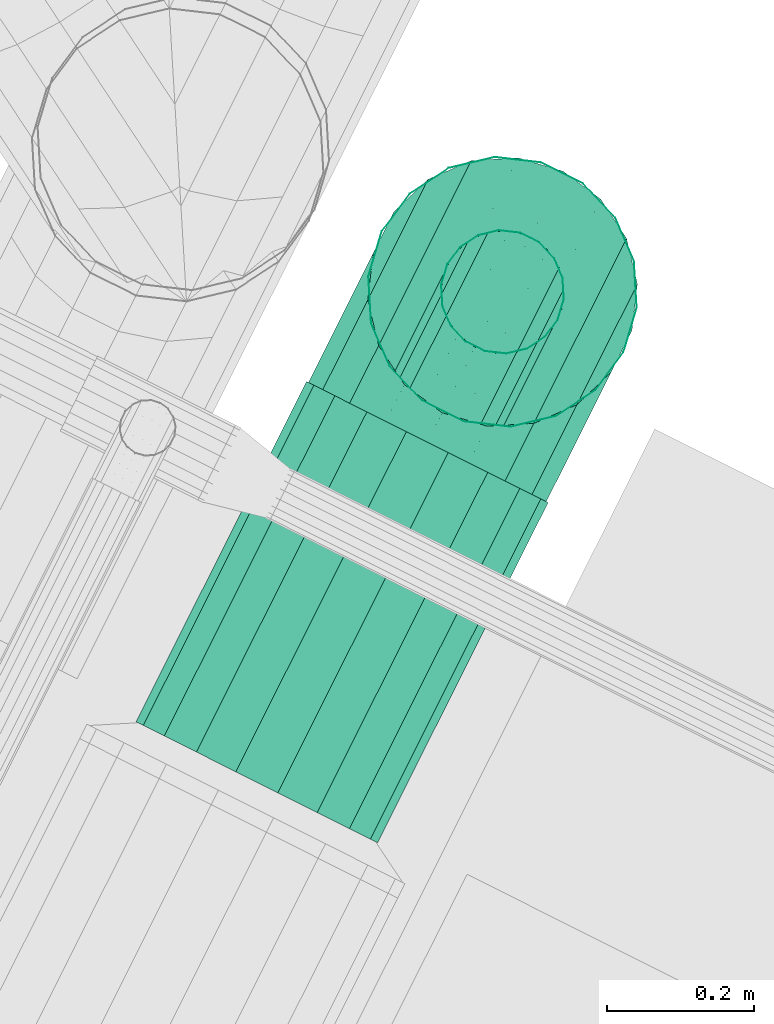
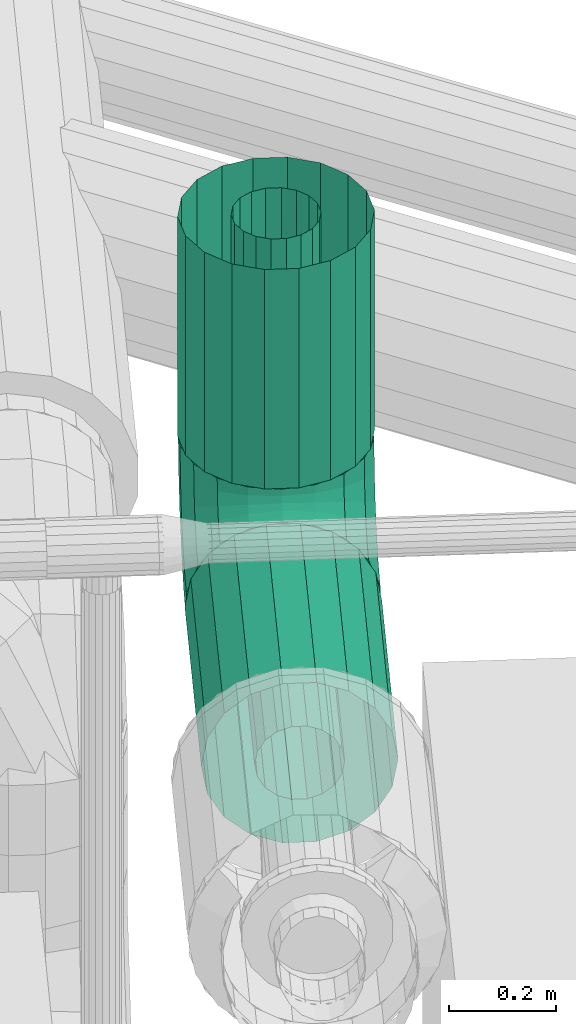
# One storey, part 133 of 206: 3 flow segments.
"""IFC2X3 building model written with IfcOpenShell, lengths in metres."""

from ifc_helpers import new_model, si_unit, derived_unit, direction, frame, origin, place, context, subcontext, project, spatial, face_set, surface_model, source, transform, mapped, material, type_object, type_shapes, element, save


model = new_model("IFC2X3")

# Units and contexts
model_context = context("Model", 3, precision=5.2338327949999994e-05, world=origin(), true_north=direction((0.0, 1.0)))
body_context = subcontext(model_context, "Body", "Model", "MODEL_VIEW")
ifc_project = project(units=[si_unit("LENGTHUNIT", "METRE"), si_unit("AREAUNIT", "SQUARE_METRE"), si_unit("VOLUMEUNIT", "CUBIC_METRE"), si_unit("MASSUNIT", "GRAM", prefix="KILO"), si_unit("PLANEANGLEUNIT", "RADIAN"), derived_unit("THERMALTRANSMITTANCEUNIT", [(si_unit("MASSUNIT", "GRAM", prefix="KILO"), 1), (si_unit("THERMODYNAMICTEMPERATUREUNIT", "KELVIN"), -1), (si_unit("TIMEUNIT", "SECOND"), -3)])], contexts=[model_context])

# Site, building, storey
site_placement = place(None, frame((0.0, 0.0, 0.0), z_axis=(0.0, 0.0, 1.0), x_axis=(0.8939966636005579, -0.4480736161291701, 0.0)))
site = spatial("IfcSite", under=ifc_project, at=site_placement, Name="Default", CompositionType="ELEMENT")
building_placement = place(site_placement, origin())
building = spatial("IfcBuilding", under=site, at=building_placement, CompositionType="ELEMENT")
storey_placement = place(building_placement, origin())
storey = spatial("IfcBuildingStorey", under=building, at=storey_placement, Name="Erdgeschoss", CompositionType="ELEMENT", Elevation=0.0)

# Flow segments
ifc_material = material(Name="IfcSurfaceStyle #1741")
distribution_element_type_1 = type_object("IfcDistributionElementType", Name="Stahlrohr nach DIN 2448 614313:Stahlrohr nach DIN 2448 614313", material=ifc_material)
shared_shape_1 = source(origin(), body_context, "Body", "SurfaceModel", [
    surface_model("IfcFaceBasedSurfaceModel", [(25.524005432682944, 8.230715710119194, 2.353999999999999), (25.518930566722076, 8.230715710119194, 2.382780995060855), (25.518930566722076, 7.711892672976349, 2.382780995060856), (25.524005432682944, 7.711892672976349, 2.3540000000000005), (25.5043180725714, 8.230715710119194, 2.408090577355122), (25.50431807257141, 7.711892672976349, 2.4080905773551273), (25.481930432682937, 8.230715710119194, 2.4268760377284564), (25.481930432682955, 7.711892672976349, 2.426876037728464), (25.454467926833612, 8.230715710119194, 2.436871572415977), (25.454467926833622, 7.711892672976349, 2.43687157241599), (25.42524293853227, 8.230715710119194, 2.436871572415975), (25.42524293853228, 7.711892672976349, 2.436871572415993), (25.39778043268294, 8.230715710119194, 2.4268760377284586), (25.39778043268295, 7.711892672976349, 2.4268760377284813), (25.37539279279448, 8.230715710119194, 2.4080905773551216), (25.37539279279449, 7.711892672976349, 2.408090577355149), (25.36078029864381, 8.230715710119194, 2.382780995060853), (25.360780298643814, 7.711892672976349, 2.382780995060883), (25.355705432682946, 8.230715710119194, 2.353999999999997), (25.35570543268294, 7.711892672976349, 2.3540000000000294), (25.360780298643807, 8.230715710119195, 2.3252190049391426), (25.360780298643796, 7.711892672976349, 2.3252190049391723), (25.375392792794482, 8.230715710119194, 2.2999094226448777), (25.375392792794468, 7.711892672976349, 2.2999094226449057), (25.39778043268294, 8.230715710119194, 2.281123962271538), (25.39778043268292, 7.711892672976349, 2.281123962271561), (25.425242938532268, 8.230715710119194, 2.271128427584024), (25.42524293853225, 7.711892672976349, 2.271128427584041), (25.454467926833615, 8.230715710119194, 2.2711284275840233), (25.454467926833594, 7.711892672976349, 2.2711284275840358), (25.481930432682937, 8.230715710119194, 2.2811239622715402), (25.48193043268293, 7.711892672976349, 2.2811239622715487), (25.5043180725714, 8.230715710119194, 2.2999094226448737), (25.504318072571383, 7.711892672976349, 2.299909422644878), (25.518930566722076, 8.230715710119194, 2.3252190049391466), (25.518930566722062, 7.711892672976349, 2.325219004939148), (25.624005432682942, 8.230715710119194, 2.353999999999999), (25.612899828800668, 8.230715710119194, 2.4169830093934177), (25.612899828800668, 7.711892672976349, 2.416983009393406), (25.624005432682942, 7.711892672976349, 2.353999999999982), (25.580922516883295, 8.230715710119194, 2.472369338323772), (25.580922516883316, 7.711892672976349, 2.472369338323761), (25.53193043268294, 8.230715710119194, 2.5134785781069), (25.531930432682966, 7.711892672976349, 2.5134785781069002), (25.471832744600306, 8.230715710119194, 2.5353523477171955), (25.471832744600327, 7.711892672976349, 2.535352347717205), (25.407878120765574, 8.230715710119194, 2.535352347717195), (25.407878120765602, 7.711892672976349, 2.535352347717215), (25.347780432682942, 8.230715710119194, 2.5134785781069), (25.347780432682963, 7.711892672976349, 2.513478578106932), (25.298788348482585, 8.230715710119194, 2.4723693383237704), (25.298788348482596, 7.711892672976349, 2.4723693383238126), (25.26681103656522, 8.230715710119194, 2.4169830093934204), (25.266811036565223, 7.711892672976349, 2.416983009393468), (25.25570543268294, 8.230715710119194, 2.3539999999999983), (25.25570543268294, 7.711892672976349, 2.3540000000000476), (25.266811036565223, 8.230715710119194, 2.291016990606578), (25.2668110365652, 7.711892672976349, 2.2910169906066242), (25.298788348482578, 8.230715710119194, 2.2356306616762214), (25.298788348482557, 7.711892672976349, 2.2356306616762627), (25.347780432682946, 8.230715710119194, 2.194521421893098), (25.347780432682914, 7.711892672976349, 2.194521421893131), (25.407878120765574, 8.230715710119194, 2.172647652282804), (25.407878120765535, 7.711892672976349, 2.1726476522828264), (25.471832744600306, 8.230715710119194, 2.1726476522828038), (25.471832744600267, 7.711892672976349, 2.172647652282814), (25.53193043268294, 8.230715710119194, 2.1945214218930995), (25.53193043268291, 7.711892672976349, 2.1945214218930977), (25.5809225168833, 8.230715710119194, 2.2356306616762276), (25.580922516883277, 7.711892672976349, 2.235630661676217), (25.612899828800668, 8.230715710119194, 2.291016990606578), (25.612899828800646, 7.711892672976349, 2.2910169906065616)], [face_set([[[0, 1, 2, 3]], [[1, 4, 5, 2]], [[4, 6, 7, 5]], [[6, 8, 9, 7]], [[8, 10, 11, 9]], [[10, 12, 13, 11]], [[12, 14, 15, 13]], [[14, 16, 17, 15]], [[16, 18, 19, 17]], [[18, 20, 21, 19]], [[20, 22, 23, 21]], [[22, 24, 25, 23]], [[24, 26, 27, 25]], [[26, 28, 29, 27]], [[28, 30, 31, 29]], [[30, 32, 33, 31]], [[32, 34, 35, 33]], [[34, 0, 3, 35]], [[36, 37, 38, 39]], [[37, 40, 41, 38]], [[40, 42, 43, 41]], [[42, 44, 45, 43]], [[44, 46, 47, 45]], [[46, 48, 49, 47]], [[48, 50, 51, 49]], [[50, 52, 53, 51]], [[52, 54, 55, 53]], [[54, 56, 57, 55]], [[56, 58, 59, 57]], [[58, 60, 61, 59]], [[60, 62, 63, 61]], [[62, 64, 65, 63]], [[64, 66, 67, 65]], [[66, 68, 69, 67]], [[68, 70, 71, 69]], [[70, 36, 39, 71]]])]),
])
type_shapes(distribution_element_type_1, [shared_shape_1])
flow_segment_1_placement = place(storey_placement, origin())
element("IfcFlowSegment", 1, at=flow_segment_1_placement, inside=storey, type_object=distribution_element_type_1, material=ifc_material, Name="Stahlrohr nach DIN 2448", ObjectType="Stahlrohr nach DIN 2448", context=body_context, shape_type="MappedRepresentation", body=[
    mapped(shared_shape_1, transform((0.0, 0.0, 0.0), scale=1.0)),
])
distribution_element_type_2 = type_object("IfcDistributionElementType", Name="Stahlrohr nach DIN 2448 614359:Stahlrohr nach DIN 2448 614359", material=ifc_material)
shared_shape_2 = source(origin(), body_context, "Body", "SurfaceModel", [
    surface_model("IfcFaceBasedSurfaceModel", [(25.52400543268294, 8.459715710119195, 2.583), (25.518930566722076, 8.488496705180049, 2.583), (25.518930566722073, 8.488496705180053, 3.0829999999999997), (25.52400543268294, 8.459715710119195, 3.0829999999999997), (25.5043180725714, 8.513806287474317, 2.583), (25.5043180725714, 8.513806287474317, 3.0829999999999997), (25.481930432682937, 8.532591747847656, 2.583), (25.481930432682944, 8.532591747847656, 3.0829999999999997), (25.454467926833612, 8.542587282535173, 2.583), (25.45446792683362, 8.542587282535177, 3.0829999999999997), (25.42524293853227, 8.542587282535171, 2.583), (25.425242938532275, 8.542587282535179, 3.0829999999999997), (25.39778043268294, 8.532591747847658, 2.583), (25.39778043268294, 8.532591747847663, 3.0829999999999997), (25.37539279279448, 8.513806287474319, 2.583), (25.37539279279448, 8.513806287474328, 3.0829999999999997), (25.360780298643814, 8.48849670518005, 2.583), (25.36078029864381, 8.488496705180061, 3.0829999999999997), (25.355705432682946, 8.459715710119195, 2.5830000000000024), (25.35570543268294, 8.459715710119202, 3.0829999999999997), (25.360780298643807, 8.43093471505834, 2.583), (25.3607802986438, 8.43093471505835, 3.0829999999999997), (25.37539279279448, 8.405625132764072, 2.583), (25.375392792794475, 8.405625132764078, 3.0829999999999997), (25.39778043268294, 8.386839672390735, 2.583), (25.397780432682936, 8.386839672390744, 3.0829999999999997), (25.425242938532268, 8.37684413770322, 2.583), (25.42524293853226, 8.376844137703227, 3.0829999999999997), (25.454467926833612, 8.37684413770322, 2.583), (25.45446792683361, 8.376844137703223, 3.0829999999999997), (25.481930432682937, 8.386839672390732, 2.583), (25.481930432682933, 8.386839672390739, 3.0829999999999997), (25.5043180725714, 8.405625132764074, 2.583), (25.504318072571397, 8.405625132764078, 3.0829999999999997), (25.518930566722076, 8.430934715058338, 2.583), (25.518930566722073, 8.430934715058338, 3.0829999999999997), (25.624005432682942, 8.459715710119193, 2.583), (25.612899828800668, 8.52269871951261, 2.583), (25.61289982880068, 8.5226987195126, 3.0829999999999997), (25.62400543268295, 8.459715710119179, 3.0829999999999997), (25.580922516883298, 8.578085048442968, 2.583), (25.58092251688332, 8.578085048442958, 3.0829999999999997), (25.531930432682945, 8.619194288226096, 2.583), (25.531930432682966, 8.619194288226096, 3.0829999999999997), (25.471832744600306, 8.64106805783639, 2.583), (25.471832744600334, 8.641068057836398, 3.0829999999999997), (25.407878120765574, 8.64106805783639, 2.583), (25.4078781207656, 8.64106805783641, 3.0829999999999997), (25.347780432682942, 8.6191942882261, 2.583), (25.347780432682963, 8.619194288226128, 3.0829999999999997), (25.29878834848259, 8.57808504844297, 2.583), (25.2987883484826, 8.578085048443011, 3.0829999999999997), (25.266811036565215, 8.522698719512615, 2.583), (25.266811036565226, 8.52269871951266, 3.0829999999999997), (25.25570543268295, 8.459715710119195, 2.583), (25.25570543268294, 8.459715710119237, 3.0829999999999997), (25.26681103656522, 8.396732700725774, 2.583), (25.2668110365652, 8.39673270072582, 3.0829999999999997), (25.298788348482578, 8.34134637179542, 2.583), (25.298788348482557, 8.341346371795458, 3.0829999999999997), (25.347780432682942, 8.300237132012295, 2.583), (25.347780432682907, 8.300237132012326, 3.0829999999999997), (25.40787812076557, 8.278363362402, 2.583), (25.40787812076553, 8.27836336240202, 3.0829999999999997), (25.471832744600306, 8.278363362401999, 2.583), (25.471832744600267, 8.278363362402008, 3.0829999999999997), (25.531930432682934, 8.300237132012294, 2.583), (25.53193043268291, 8.300237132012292, 3.0829999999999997), (25.580922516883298, 8.341346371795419, 2.583), (25.58092251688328, 8.341346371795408, 3.0829999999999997), (25.61289982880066, 8.396732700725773, 2.583), (25.61289982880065, 8.396732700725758, 3.0829999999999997)], [face_set([[[0, 1, 2, 3]], [[1, 4, 5, 2]], [[4, 6, 7, 5]], [[6, 8, 9, 7]], [[8, 10, 11, 9]], [[10, 12, 13, 11]], [[12, 14, 15, 13]], [[14, 16, 17, 15]], [[16, 18, 19, 17]], [[18, 20, 21, 19]], [[20, 22, 23, 21]], [[22, 24, 25, 23]], [[24, 26, 27, 25]], [[26, 28, 29, 27]], [[28, 30, 31, 29]], [[30, 32, 33, 31]], [[32, 34, 35, 33]], [[34, 0, 3, 35]], [[36, 37, 38, 39]], [[37, 40, 41, 38]], [[40, 42, 43, 41]], [[42, 44, 45, 43]], [[44, 46, 47, 45]], [[46, 48, 49, 47]], [[48, 50, 51, 49]], [[50, 52, 53, 51]], [[52, 54, 55, 53]], [[54, 56, 57, 55]], [[56, 58, 59, 57]], [[58, 60, 61, 59]], [[60, 62, 63, 61]], [[62, 64, 65, 63]], [[64, 66, 67, 65]], [[66, 68, 69, 67]], [[68, 70, 71, 69]], [[70, 36, 39, 71]]])]),
])
type_shapes(distribution_element_type_2, [shared_shape_2])
flow_segment_2_placement = place(storey_placement, origin())
element("IfcFlowSegment", 2, at=flow_segment_2_placement, inside=storey, type_object=distribution_element_type_2, material=ifc_material, Name="Stahlrohr nach DIN 2448", ObjectType="Stahlrohr nach DIN 2448", context=body_context, shape_type="MappedRepresentation", body=[
    mapped(shared_shape_2, transform((0.0, 0.0, 0.0), scale=1.0)),
])
distribution_element_type_3 = type_object("IfcDistributionElementType", Name="Rohrbogen 614451:Rohrbogen 614451", material=ifc_material)
shared_shape_3 = source(origin(), body_context, "Body", "SurfaceModel", [
    surface_model("IfcFaceBasedSurfaceModel", [(25.43985543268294, 8.230715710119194, 2.269849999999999), (25.411074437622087, 8.230715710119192, 2.2749248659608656), (25.411074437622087, 8.325916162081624, 2.2900031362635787), (25.43985543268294, 8.327484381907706, 2.2851766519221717), (25.411074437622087, 8.411797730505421, 2.3337619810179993), (25.43985543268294, 8.41478066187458, 2.3296563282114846), (25.411074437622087, 8.47995372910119, 2.4019179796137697), (25.43985543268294, 8.48405938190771, 2.39893504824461), (25.41107443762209, 8.523712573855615, 2.4877995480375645), (25.439855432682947, 8.528539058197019, 2.4862313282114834), (25.41107443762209, 8.538790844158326, 2.5829999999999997), (25.439855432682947, 8.543865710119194, 2.5829999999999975), (25.38576485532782, 8.230715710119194, 2.2895373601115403), (25.385764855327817, 8.321400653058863, 2.303900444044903), (25.38576485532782, 8.403208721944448, 2.3455837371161), (25.38576485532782, 8.468131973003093, 2.410506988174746), (25.385764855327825, 8.509815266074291, 2.492315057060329), (25.385764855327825, 8.524178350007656, 2.5829999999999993), (25.366979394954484, 8.230715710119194, 2.3119249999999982), (25.366979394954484, 8.314482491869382, 2.32519235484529), (25.36697939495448, 8.390049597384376, 2.363695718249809), (25.366979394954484, 8.450019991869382, 2.4236661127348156), (25.366979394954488, 8.4885233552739, 2.4992332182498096), (25.366979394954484, 8.501790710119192, 2.583), (25.356983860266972, 8.230715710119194, 2.339387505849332), (25.356983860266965, 8.305996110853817, 2.351310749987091), (25.356983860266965, 8.373907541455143, 2.3859133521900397), (25.356983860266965, 8.427802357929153, 2.4398081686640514), (25.35698386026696, 8.462404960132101, 2.507719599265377), (25.356983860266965, 8.474328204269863, 2.583000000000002), (25.35698386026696, 8.230715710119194, 2.3686124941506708), (25.356983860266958, 8.296965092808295, 2.3791053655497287), (25.35698386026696, 8.356729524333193, 2.409556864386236), (25.356983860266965, 8.404158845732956, 2.4569861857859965), (25.35698386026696, 8.434610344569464, 2.5167506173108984), (25.356983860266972, 8.445103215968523, 2.5829999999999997), (25.366979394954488, 8.230715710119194, 2.396074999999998), (25.36697939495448, 8.28847871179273, 2.405223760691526), (25.36697939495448, 8.340587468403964, 2.4317744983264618), (25.36697939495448, 8.381941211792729, 2.4731282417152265), (25.366979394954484, 8.408491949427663, 2.52523699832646), (25.366979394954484, 8.417640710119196, 2.5829999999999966), (25.385764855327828, 8.230715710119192, 2.4184626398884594), (25.385764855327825, 8.28156055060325, 2.426515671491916), (25.385764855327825, 8.327428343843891, 2.449886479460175), (25.38576485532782, 8.363829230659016, 2.4862873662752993), (25.385764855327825, 8.387200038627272, 2.5321551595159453), (25.385764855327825, 8.395253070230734, 2.5830000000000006), (25.411074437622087, 8.230715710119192, 2.4330751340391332), (25.411074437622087, 8.277045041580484, 2.4404129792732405), (25.411074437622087, 8.318839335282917, 2.461708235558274), (25.41107443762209, 8.352007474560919, 2.4948763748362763), (25.41107443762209, 8.373302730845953, 2.5366706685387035), (25.41107443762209, 8.380640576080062, 2.582999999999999), (25.439855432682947, 8.230715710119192, 2.438149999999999), (25.439855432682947, 8.275476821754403, 2.4452394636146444), (25.439855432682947, 8.31585640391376, 2.4658138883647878), (25.439855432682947, 8.347901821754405, 2.497859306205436), (25.439855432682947, 8.368476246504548, 2.5382388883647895), (25.439855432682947, 8.375565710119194, 2.5830000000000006), (25.4686364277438, 8.230715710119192, 2.4330751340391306), (25.4686364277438, 8.277045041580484, 2.440412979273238), (25.4686364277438, 8.318839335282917, 2.4617082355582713), (25.4686364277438, 8.352007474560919, 2.4948763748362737), (25.4686364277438, 8.373302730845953, 2.5366706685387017), (25.4686364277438, 8.380640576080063, 2.5829999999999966), (25.493946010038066, 8.230715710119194, 2.4184626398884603), (25.493946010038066, 8.28156055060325, 2.426515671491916), (25.493946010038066, 8.327428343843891, 2.449886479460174), (25.493946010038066, 8.363829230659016, 2.4862873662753), (25.493946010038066, 8.387200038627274, 2.5321551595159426), (25.493946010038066, 8.39525307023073, 2.582999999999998), (25.512731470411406, 8.230715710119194, 2.3960749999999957), (25.512731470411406, 8.28847871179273, 2.4052237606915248), (25.512731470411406, 8.340587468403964, 2.4317744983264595), (25.512731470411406, 8.38194121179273, 2.4731282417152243), (25.512731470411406, 8.408491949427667, 2.5252369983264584), (25.512731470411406, 8.417640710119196, 2.5829999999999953), (25.522727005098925, 8.230715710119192, 2.3686124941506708), (25.522727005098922, 8.296965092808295, 2.3791053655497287), (25.522727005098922, 8.356729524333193, 2.409556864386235), (25.522727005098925, 8.404158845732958, 2.4569861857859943), (25.522727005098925, 8.434610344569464, 2.5167506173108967), (25.522727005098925, 8.445103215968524, 2.5829999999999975), (25.522727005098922, 8.230715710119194, 2.3393875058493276), (25.522727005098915, 8.305996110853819, 2.351310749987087), (25.522727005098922, 8.373907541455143, 2.3859133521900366), (25.522727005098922, 8.427802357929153, 2.4398081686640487), (25.522727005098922, 8.462404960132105, 2.5077195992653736), (25.52272700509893, 8.474328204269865, 2.5829999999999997), (25.512731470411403, 8.230715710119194, 2.3119249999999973), (25.512731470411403, 8.314482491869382, 2.3251923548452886), (25.512731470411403, 8.390049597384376, 2.3636957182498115), (25.512731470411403, 8.450019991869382, 2.4236661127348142), (25.51273147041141, 8.488523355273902, 2.499233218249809), (25.512731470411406, 8.501790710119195, 2.5829999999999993), (25.493946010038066, 8.230715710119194, 2.289537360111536), (25.493946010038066, 8.321400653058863, 2.3039004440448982), (25.493946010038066, 8.403208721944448, 2.345583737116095), (25.493946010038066, 8.468131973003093, 2.4105069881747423), (25.493946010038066, 8.509815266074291, 2.492315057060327), (25.493946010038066, 8.524178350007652, 2.5829999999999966), (25.468636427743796, 8.230715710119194, 2.2749248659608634), (25.468636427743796, 8.325916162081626, 2.290003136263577), (25.4686364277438, 8.411797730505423, 2.3337619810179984), (25.4686364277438, 8.479953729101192, 2.401917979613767), (25.4686364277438, 8.523712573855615, 2.487799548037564), (25.4686364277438, 8.53879084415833, 2.5829999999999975), (25.439855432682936, 8.230715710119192, 2.1698499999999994), (25.37687242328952, 8.230715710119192, 2.180955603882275), (25.37687242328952, 8.35495426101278, 2.200633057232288), (25.439855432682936, 8.358386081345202, 2.1900710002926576), (25.37687242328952, 8.467031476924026, 2.257739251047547), (25.439855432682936, 8.47355918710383, 2.2487546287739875), (25.376872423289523, 8.555976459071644, 2.346684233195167), (25.43985543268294, 8.564961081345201, 2.3401565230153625), (25.376872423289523, 8.613082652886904, 2.4587614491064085), (25.43985543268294, 8.623644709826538, 2.4553296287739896), (25.376872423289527, 8.632760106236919, 2.582999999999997), (25.439855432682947, 8.643865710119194, 2.5830000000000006), (25.321486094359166, 8.230715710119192, 2.212932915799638), (25.32148609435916, 8.345072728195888, 2.2310452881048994), (25.321486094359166, 8.448235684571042, 2.2836094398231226), (25.321486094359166, 8.530106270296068, 2.3654800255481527), (25.32148609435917, 8.582670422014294, 2.4686429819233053), (25.321486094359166, 8.600782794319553, 2.5830000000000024), (25.28037685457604, 8.230715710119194, 2.2619250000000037), (25.280376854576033, 8.329933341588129, 2.277639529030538), (25.280376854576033, 8.419438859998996, 2.3232448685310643), (25.280376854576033, 8.490470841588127, 2.394276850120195), (25.28037685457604, 8.53607618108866, 2.4837823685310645), (25.28037685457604, 8.551790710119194, 2.5829999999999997), (25.25850308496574, 8.230715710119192, 2.3220226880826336), (25.258503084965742, 8.311362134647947, 2.334795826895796), (25.258503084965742, 8.384114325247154, 2.3718649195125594), (25.25850308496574, 8.441850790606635, 2.429601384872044), (25.25850308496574, 8.478919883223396, 2.502353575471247), (25.258503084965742, 8.491693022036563, 2.5830000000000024), (25.258503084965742, 8.230715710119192, 2.3859773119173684), (25.258503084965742, 8.29159906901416, 2.3956202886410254), (25.258503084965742, 8.346522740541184, 2.4236052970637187), (25.258503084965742, 8.390110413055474, 2.4671929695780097), (25.258503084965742, 8.41809542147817, 2.5221166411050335), (25.258503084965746, 8.427738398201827, 2.5830000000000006), (25.28037685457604, 8.230715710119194, 2.446075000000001), (25.28037685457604, 8.273027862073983, 2.4527765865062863), (25.28037685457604, 8.31119820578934, 2.4722253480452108), (25.28037685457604, 8.341490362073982, 2.502517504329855), (25.28037685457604, 8.360939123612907, 2.5406878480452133), (25.280376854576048, 8.367640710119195, 2.5830000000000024), (25.32148609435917, 8.230715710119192, 2.4950670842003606), (25.32148609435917, 8.25788847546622, 2.499370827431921), (25.321486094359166, 8.282401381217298, 2.511860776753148), (25.32148609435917, 8.301854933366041, 2.531314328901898), (25.32148609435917, 8.314344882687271, 2.555827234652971), (25.321486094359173, 8.318648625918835, 2.582999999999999), (25.376872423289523, 8.230715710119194, 2.527044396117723), (25.376872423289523, 8.24800694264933, 2.5297830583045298), (25.376872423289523, 8.263605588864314, 2.537730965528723), (25.376872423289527, 8.275984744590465, 2.550110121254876), (25.376872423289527, 8.283932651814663, 2.565708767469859), (25.376872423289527, 8.28667131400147, 2.582999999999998), (25.439855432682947, 8.230715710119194, 2.538149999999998), (25.43985543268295, 8.244575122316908, 2.5403451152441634), (25.43985543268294, 8.25707787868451, 2.5467155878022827), (25.439855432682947, 8.267000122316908, 2.556637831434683), (25.439855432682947, 8.273370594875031, 2.5691405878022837), (25.43985543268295, 8.275565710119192, 2.583000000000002), (25.502838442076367, 8.230715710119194, 2.527044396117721), (25.502838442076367, 8.24800694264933, 2.529783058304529), (25.502838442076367, 8.263605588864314, 2.5377309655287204), (25.502838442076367, 8.275984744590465, 2.550110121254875), (25.502838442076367, 8.283932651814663, 2.565708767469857), (25.502838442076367, 8.28667131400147, 2.5829999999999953), (25.55822477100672, 8.230715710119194, 2.495067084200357), (25.55822477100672, 8.257888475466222, 2.4993708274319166), (25.55822477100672, 8.282401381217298, 2.511860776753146), (25.55822477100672, 8.301854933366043, 2.5313143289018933), (25.55822477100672, 8.314344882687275, 2.555827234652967), (25.55822477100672, 8.318648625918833, 2.5829999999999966), (25.599334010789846, 8.230715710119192, 2.446074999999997), (25.599334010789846, 8.273027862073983, 2.4527765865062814), (25.599334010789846, 8.31119820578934, 2.4722253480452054), (25.599334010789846, 8.341490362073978, 2.502517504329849), (25.59933401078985, 8.360939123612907, 2.540687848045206), (25.59933401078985, 8.367640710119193, 2.582999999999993), (25.62120778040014, 8.230715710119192, 2.3859773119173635), (25.621207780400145, 8.29159906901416, 2.395620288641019), (25.621207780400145, 8.346522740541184, 2.423605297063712), (25.621207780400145, 8.390110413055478, 2.4671929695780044), (25.621207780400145, 8.418095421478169, 2.522116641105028), (25.621207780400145, 8.427738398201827, 2.582999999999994), (25.62120778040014, 8.230715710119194, 2.3220226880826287), (25.62120778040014, 8.31136213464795, 2.334795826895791), (25.62120778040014, 8.384114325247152, 2.371864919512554), (25.62120778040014, 8.441850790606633, 2.429601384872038), (25.621207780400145, 8.478919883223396, 2.502353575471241), (25.621207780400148, 8.491693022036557, 2.5829999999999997), (25.59933401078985, 8.230715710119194, 2.261924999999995), (25.599334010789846, 8.329933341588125, 2.2776395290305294), (25.599334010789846, 8.419438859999, 2.323244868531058), (25.59933401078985, 8.49047084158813, 2.3942768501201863), (25.599334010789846, 8.536076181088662, 2.4837823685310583), (25.599334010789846, 8.551790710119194, 2.582999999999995), (25.558224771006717, 8.230715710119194, 2.2129329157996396), (25.558224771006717, 8.34507272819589, 2.2310452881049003), (25.558224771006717, 8.448235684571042, 2.283609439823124), (25.558224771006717, 8.530106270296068, 2.3654800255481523), (25.55822477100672, 8.58267042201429, 2.4686429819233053), (25.55822477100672, 8.600782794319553, 2.582999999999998), (25.50283844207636, 8.230715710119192, 2.180955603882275), (25.50283844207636, 8.35495426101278, 2.200633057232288), (25.50283844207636, 8.467031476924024, 2.2577392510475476), (25.502838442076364, 8.555976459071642, 2.346684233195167), (25.502838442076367, 8.613082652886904, 2.458761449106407), (25.502838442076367, 8.632760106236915, 2.5829999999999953)], [face_set([[[0, 1, 2, 3]], [[3, 2, 4, 5]], [[5, 4, 6, 7]], [[7, 6, 8, 9]], [[9, 8, 10, 11]], [[1, 12, 13, 2]], [[2, 13, 14, 4]], [[4, 14, 15, 6]], [[6, 15, 16, 8]], [[8, 16, 17, 10]], [[12, 18, 19, 13]], [[13, 19, 20, 14]], [[14, 20, 21, 15]], [[15, 21, 22, 16]], [[16, 22, 23, 17]], [[18, 24, 25, 19]], [[19, 25, 26, 20]], [[20, 26, 27, 21]], [[21, 27, 28, 22]], [[22, 28, 29, 23]], [[24, 30, 31, 25]], [[25, 31, 32, 26]], [[26, 32, 33, 27]], [[27, 33, 34, 28]], [[28, 34, 35, 29]], [[30, 36, 37, 31]], [[31, 37, 38, 32]], [[32, 38, 39, 33]], [[33, 39, 40, 34]], [[34, 40, 41, 35]], [[36, 42, 43, 37]], [[37, 43, 44, 38]], [[38, 44, 45, 39]], [[39, 45, 46, 40]], [[40, 46, 47, 41]], [[42, 48, 49, 43]], [[43, 49, 50, 44]], [[44, 50, 51, 45]], [[45, 51, 52, 46]], [[46, 52, 53, 47]], [[48, 54, 55, 49]], [[49, 55, 56, 50]], [[50, 56, 57, 51]], [[51, 57, 58, 52]], [[52, 58, 59, 53]], [[54, 60, 61, 55]], [[55, 61, 62, 56]], [[56, 62, 63, 57]], [[57, 63, 64, 58]], [[58, 64, 65, 59]], [[60, 66, 67, 61]], [[61, 67, 68, 62]], [[62, 68, 69, 63]], [[63, 69, 70, 64]], [[64, 70, 71, 65]], [[66, 72, 73, 67]], [[67, 73, 74, 68]], [[68, 74, 75, 69]], [[69, 75, 76, 70]], [[70, 76, 77, 71]], [[72, 78, 79, 73]], [[73, 79, 80, 74]], [[74, 80, 81, 75]], [[75, 81, 82, 76]], [[76, 82, 83, 77]], [[78, 84, 85, 79]], [[79, 85, 86, 80]], [[80, 86, 87, 81]], [[81, 87, 88, 82]], [[82, 88, 89, 83]], [[84, 90, 91, 85]], [[85, 91, 92, 86]], [[86, 92, 93, 87]], [[87, 93, 94, 88]], [[88, 94, 95, 89]], [[90, 96, 97, 91]], [[91, 97, 98, 92]], [[92, 98, 99, 93]], [[93, 99, 100, 94]], [[94, 100, 101, 95]], [[96, 102, 103, 97]], [[97, 103, 104, 98]], [[98, 104, 105, 99]], [[99, 105, 106, 100]], [[100, 106, 107, 101]], [[102, 0, 3, 103]], [[103, 3, 5, 104]], [[104, 5, 7, 105]], [[105, 7, 9, 106]], [[106, 9, 11, 107]], [[108, 109, 110, 111]], [[111, 110, 112, 113]], [[113, 112, 114, 115]], [[115, 114, 116, 117]], [[117, 116, 118, 119]], [[109, 120, 121, 110]], [[110, 121, 122, 112]], [[112, 122, 123, 114]], [[114, 123, 124, 116]], [[116, 124, 125, 118]], [[120, 126, 127, 121]], [[121, 127, 128, 122]], [[122, 128, 129, 123]], [[123, 129, 130, 124]], [[124, 130, 131, 125]], [[126, 132, 133, 127]], [[127, 133, 134, 128]], [[128, 134, 135, 129]], [[129, 135, 136, 130]], [[130, 136, 137, 131]], [[132, 138, 139, 133]], [[133, 139, 140, 134]], [[134, 140, 141, 135]], [[135, 141, 142, 136]], [[136, 142, 143, 137]], [[138, 144, 145, 139]], [[139, 145, 146, 140]], [[140, 146, 147, 141]], [[141, 147, 148, 142]], [[142, 148, 149, 143]], [[144, 150, 151, 145]], [[145, 151, 152, 146]], [[146, 152, 153, 147]], [[147, 153, 154, 148]], [[148, 154, 155, 149]], [[150, 156, 157, 151]], [[151, 157, 158, 152]], [[152, 158, 159, 153]], [[153, 159, 160, 154]], [[154, 160, 161, 155]], [[156, 162, 163, 157]], [[157, 163, 164, 158]], [[158, 164, 165, 159]], [[159, 165, 166, 160]], [[160, 166, 167, 161]], [[162, 168, 169, 163]], [[163, 169, 170, 164]], [[164, 170, 171, 165]], [[165, 171, 172, 166]], [[166, 172, 173, 167]], [[168, 174, 175, 169]], [[169, 175, 176, 170]], [[170, 176, 177, 171]], [[171, 177, 178, 172]], [[172, 178, 179, 173]], [[174, 180, 181, 175]], [[175, 181, 182, 176]], [[176, 182, 183, 177]], [[177, 183, 184, 178]], [[178, 184, 185, 179]], [[180, 186, 187, 181]], [[181, 187, 188, 182]], [[182, 188, 189, 183]], [[183, 189, 190, 184]], [[184, 190, 191, 185]], [[186, 192, 193, 187]], [[187, 193, 194, 188]], [[188, 194, 195, 189]], [[189, 195, 196, 190]], [[190, 196, 197, 191]], [[192, 198, 199, 193]], [[193, 199, 200, 194]], [[194, 200, 201, 195]], [[195, 201, 202, 196]], [[196, 202, 203, 197]], [[198, 204, 205, 199]], [[199, 205, 206, 200]], [[200, 206, 207, 201]], [[201, 207, 208, 202]], [[202, 208, 209, 203]], [[204, 210, 211, 205]], [[205, 211, 212, 206]], [[206, 212, 213, 207]], [[207, 213, 214, 208]], [[208, 214, 215, 209]], [[210, 108, 111, 211]], [[211, 111, 113, 212]], [[212, 113, 115, 213]], [[213, 115, 117, 214]], [[214, 117, 119, 215]]])]),
])
type_shapes(distribution_element_type_3, [shared_shape_3])
flow_segment_3_placement = place(storey_placement, origin())
element("IfcFlowSegment", 3, at=flow_segment_3_placement, inside=storey, type_object=distribution_element_type_3, material=ifc_material, Name="Rohrbogen", ObjectType="Rohrbogen", context=body_context, shape_type="MappedRepresentation", body=[
    mapped(shared_shape_3, transform((0.0, 0.0, 0.0), scale=1.0)),
])

save(model, "model.ifc")
